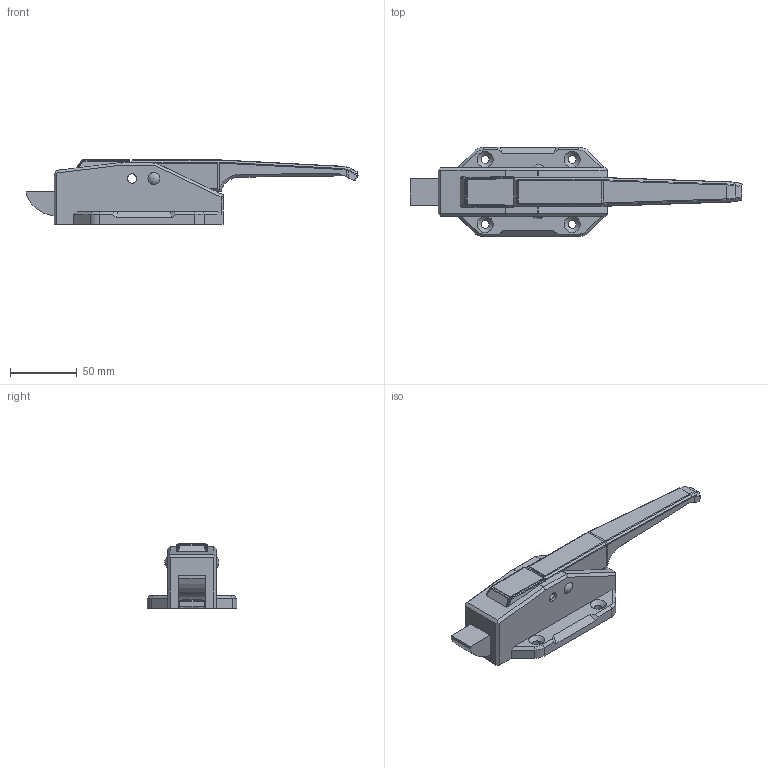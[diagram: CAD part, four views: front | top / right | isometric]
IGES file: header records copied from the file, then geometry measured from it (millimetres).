
Global section: file name: DR_D-203; native system: Autodesk Inventor 2015; preprocessor: unknown; author: Administrator; date: 20170726.100451; units: millimetre
Bounding box: 247.94 x 66.83 x 48.24 mm (x, y, z)
Volume: 113868 mm3; surface area: 72144.3 mm2
Topology: 5 solids, 5 shells, 793 faces, 1992 edges, 1210 vertices
Faces by surface type: bspline 793
